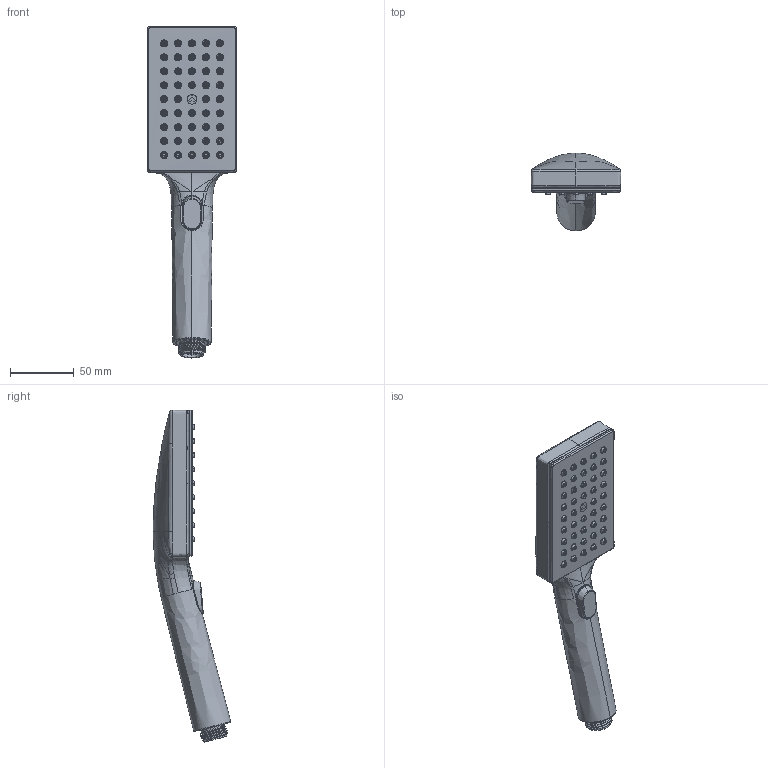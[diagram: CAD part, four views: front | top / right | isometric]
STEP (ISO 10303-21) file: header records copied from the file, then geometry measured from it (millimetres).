
FILE_DESCRIPTION (( 'STEP AP214' ), '1' );
FILE_NAME ('481WSQ.STEP', '2025-01-07T07:37:59', ( '' ), ( '' ), 'SwSTEP 2.0', 'SolidWorks 2023', '' );
FILE_SCHEMA (( 'AUTOMOTIVE_DESIGN' ));
Products named in the file (1): 481WSQ
Bounding box: 70.15 x 60.72 x 259.85 mm (x, y, z)
Surface area: 47943 mm2 (no closed solid volume)
Topology: 0 solids, 60 shells, 681 faces, 2069 edges, 1423 vertices
Faces by surface type: bspline 274, cone 259, plane 88, cylinder 38, torus 22
Entity records: 107064 total; most frequent: CARTESIAN_POINT 91642, ORIENTED_EDGE 3344, DIRECTION 2229, EDGE_CURVE 2069, VERTEX_POINT 1423, B_SPLINE_CURVE_WITH_KNOTS 1062, EDGE_LOOP 823, AXIS2_PLACEMENT_3D 822
